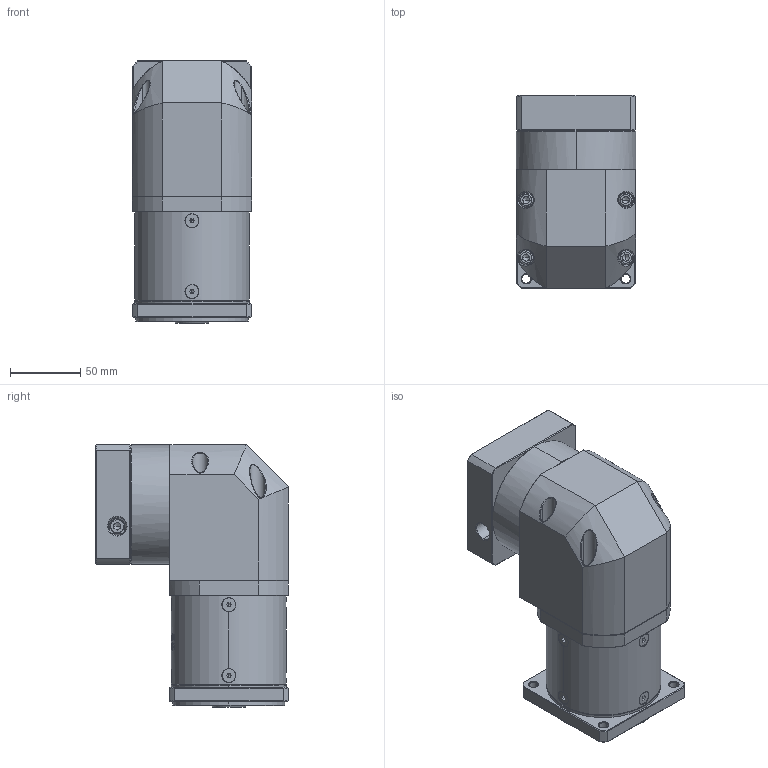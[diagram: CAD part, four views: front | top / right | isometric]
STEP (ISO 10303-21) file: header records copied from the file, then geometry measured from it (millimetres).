
FILE_DESCRIPTION (( 'STEP AP214' ), '1' );
FILE_NAME ('ZFR080-K15-L2-P2-16-80-100-M6.step', '2023-08-25T03:56:49', ( '' ), ( '' ), 'SwSTEP 2.0', 'SolidWorks 2016', '' );
FILE_SCHEMA (( 'AUTOMOTIVE_DESIGN' ));
Length unit declared in the file: millimetre
Products named in the file (1): ZFR080-K15-L2-P2-16-80-100-M6
Bounding box: 85 x 137.6 x 187 mm (x, y, z)
Volume: 1339783.7 mm3; surface area: 139133.4 mm2
Topology: 13 solids, 13 shells, 2408 faces, 6210 edges, 3909 vertices
Faces by surface type: plane 1187, cylinder 417, bspline 414, cone 358, torus 32
Entity records: 124875 total; most frequent: CARTESIAN_POINT 44890, ORIENTED_EDGE 12332, DIRECTION 9394, EDGE_CURVE 6166, VERTEX_POINT 3909, LINE 3340, VECTOR 3340, AXIS2_PLACEMENT_3D 3027
